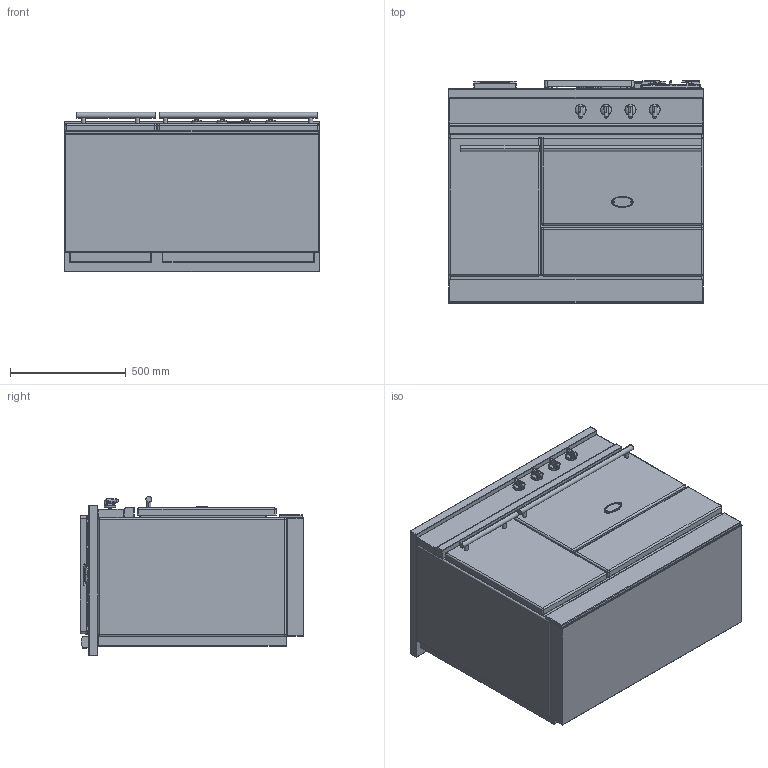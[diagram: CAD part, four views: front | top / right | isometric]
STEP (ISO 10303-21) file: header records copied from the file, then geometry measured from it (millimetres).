
FILE_DESCRIPTION((''),'2;1');
FILE_NAME('LMCF1131_CHASSAGNE_ASM','2022-04-13T11:26:03',('stagiaire'),(''),'CREO PARAMETRIC BY PTC INC, 2021424','CREO PARAMETRIC BY PTC INC, 2021424','');
FILE_SCHEMA(('AP203_CONFIGURATION_CONTROLLED_3D_DESIGN_OF_MECHANICAL_PARTS_AND_ASSEMBLIES_MIM_LF { 1 0 10303 403 2 1 2 }'));
Products named in the file (21): BASE_EXP_CHASSAGNE_LMG1131; 65049009; 65650001; 65064012; 19150009; 88064012_ASM; BASE_EXPORT_CHASSAGNE_LMG1131_ASM; TABLE_1105G_CLASSIQUE_3_FEUX; 5KW; 1_5KW; 3KW; 65062008; 65062012; 65149005; 90000549_ASM; 6537023; 90000565_ASM; CHEMINEE_2020_LG182_EXPORT_STEP; CHEMINEE_2020_LG371_EXPORT_STEP; TABLE_1105G_TRADITION_ASM; LMCF1131_CHASSAGNE_ASM
Assembly tree (30 placements, depth 4):
  LMCF1131_CHASSAGNE_ASM
    BASE_EXPORT_CHASSAGNE_LMG1131_ASM
      BASE_EXP_CHASSAGNE_LMG1131
      65049009
      65650001
      88064012_ASM  x4
        65064012
        19150009
    TABLE_1105G_TRADITION_ASM
      TABLE_1105G_CLASSIQUE_3_FEUX
      5KW
      1_5KW
      3KW
      90000549_ASM
        65062008
        65062012
        65149005  x4
      90000565_ASM
        6537023
        65149005  x4
      CHEMINEE_2020_LG182_EXPORT_STEP
      CHEMINEE_2020_LG371_EXPORT_STEP
Bounding box: 1105 x 967 x 688.5 mm (x, y, z)
Volume: 590842918.8 mm3; surface area: 9316939.3 mm2
Topology: 32 solids, 32 shells, 5163 faces, 13777 edges, 8687 vertices
Faces by surface type: plane 2342, cylinder 1457, bspline 717, sphere 296, torus 177, cone 152, extrusion 22
Entity records: 204772 total; most frequent: CARTESIAN_POINT 58632, ORIENTED_EDGE 23782, DIRECTION 21881, EDGE_CURVE 11891, PRESENTATION_STYLE_ASSIGNMENT 8843, STYLED_ITEM 8843, CURVE_STYLE 8728, VECTOR 8291
